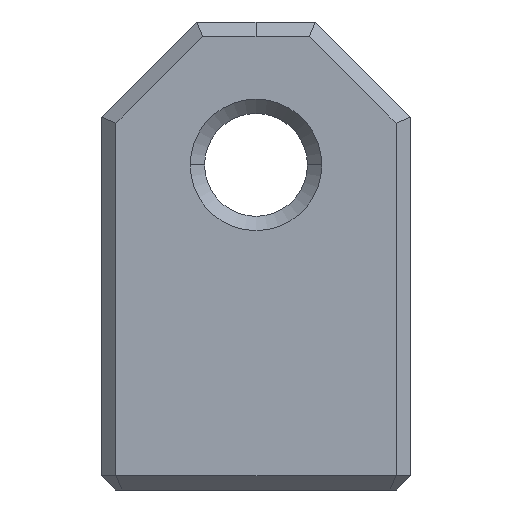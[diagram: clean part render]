
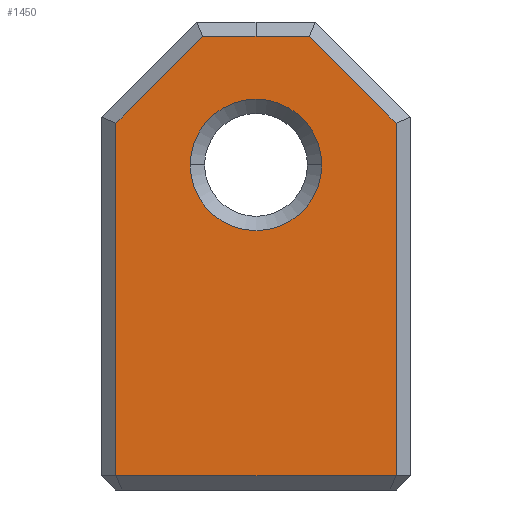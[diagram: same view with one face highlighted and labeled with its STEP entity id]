
A CAD part, left-side view. The second image highlights one B-rep face of the part: STEP entity #1450.
In plain terms, the highlighted planar face has unit normal (-1, 0, 0).
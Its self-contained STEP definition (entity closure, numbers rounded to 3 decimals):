
#893=CARTESIAN_POINT('Vertex',(0.,0.,14.5)) ;
#896=CARTESIAN_POINT('Line Origine',(0.,0.,14.5)) ;
#900=CARTESIAN_POINT('Vertex',(0.,-1.864,14.5)) ;
#919=CARTESIAN_POINT('Line Origine',(0.,0.,14.5)) ;
#923=CARTESIAN_POINT('Vertex',(0.,1.864,14.5)) ;
#946=CARTESIAN_POINT('Vertex',(0.,2.3,10.)) ;
#949=CARTESIAN_POINT('Axis2P3D Location',(0.,0.,10.)) ;
#953=CARTESIAN_POINT('Vertex',(0.,-2.3,10.)) ;
#973=CARTESIAN_POINT('Axis2P3D Location',(0.,0.,10.)) ;
#1206=CARTESIAN_POINT('Vertex',(0.,-4.9,11.464)) ;
#1209=CARTESIAN_POINT('Line Origine',(0.,-2.962,13.402)) ;
#1229=CARTESIAN_POINT('Vertex',(0.,4.9,11.464)) ;
#1232=CARTESIAN_POINT('Line Origine',(0.,2.962,13.402)) ;
#1374=CARTESIAN_POINT('Line Origine',(0.,4.9,6.5)) ;
#1378=CARTESIAN_POINT('Vertex',(0.,4.9,-0.875)) ;
#1420=CARTESIAN_POINT('Axis2P3D Location',(0.,0.,0.)) ;
#1425=CARTESIAN_POINT('Line Origine',(0.,-4.9,5.294)) ;
#1429=CARTESIAN_POINT('Vertex',(0.,-4.9,-0.875)) ;
#1432=CARTESIAN_POINT('Line Origine',(0.,0.,-0.875)) ;
#897=DIRECTION('Vector Direction',(0.,-1.,0.)) ;
#920=DIRECTION('Vector Direction',(0.,-1.,0.)) ;
#950=DIRECTION('Axis2P3D Direction',(-1.,0.,0.)) ;
#974=DIRECTION('Axis2P3D Direction',(-1.,0.,0.)) ;
#1210=DIRECTION('Vector Direction',(0.,-0.707,-0.707)) ;
#1233=DIRECTION('Vector Direction',(0.,0.707,-0.707)) ;
#1375=DIRECTION('Vector Direction',(0.,0.,1.)) ;
#1421=DIRECTION('Axis2P3D Direction',(-1.,0.,0.)) ;
#1422=DIRECTION('Axis2P3D XDirection',(0.,-1.,0.)) ;
#1426=DIRECTION('Vector Direction',(0.,0.,1.)) ;
#1433=DIRECTION('Vector Direction',(0.,1.,0.)) ;
#951=AXIS2_PLACEMENT_3D('Circle Axis2P3D',#949,#950,$) ;
#975=AXIS2_PLACEMENT_3D('Circle Axis2P3D',#973,#974,$) ;
#1423=AXIS2_PLACEMENT_3D('Plane Axis2P3D',#1420,#1421,#1422) ;
#1438=ORIENTED_EDGE('',*,*,#1431,.F.) ;
#1439=ORIENTED_EDGE('',*,*,#1213,.F.) ;
#1440=ORIENTED_EDGE('',*,*,#902,.F.) ;
#1441=ORIENTED_EDGE('',*,*,#925,.F.) ;
#1442=ORIENTED_EDGE('',*,*,#1236,.F.) ;
#1443=ORIENTED_EDGE('',*,*,#1380,.F.) ;
#1444=ORIENTED_EDGE('',*,*,#1436,.F.) ;
#1447=ORIENTED_EDGE('',*,*,#977,.F.) ;
#1448=ORIENTED_EDGE('',*,*,#955,.F.) ;
#1449=FACE_BOUND('',#1446,.T.) ;
#898=VECTOR('Line Direction',#897,1.) ;
#921=VECTOR('Line Direction',#920,1.) ;
#1211=VECTOR('Line Direction',#1210,1.) ;
#1234=VECTOR('Line Direction',#1233,1.) ;
#1376=VECTOR('Line Direction',#1375,1.) ;
#1427=VECTOR('Line Direction',#1426,1.) ;
#1434=VECTOR('Line Direction',#1433,1.) ;
#1450=ADVANCED_FACE('PartBody',(#1445,#1449),#1424,.T.) ;
#952=CIRCLE('generated circle',#951,2.3) ;
#976=CIRCLE('generated circle',#975,2.3) ;
#902=EDGE_CURVE('',#894,#901,#899,.T.) ;
#925=EDGE_CURVE('',#924,#894,#922,.T.) ;
#955=EDGE_CURVE('',#947,#954,#952,.T.) ;
#977=EDGE_CURVE('',#954,#947,#976,.T.) ;
#1213=EDGE_CURVE('',#901,#1207,#1212,.T.) ;
#1236=EDGE_CURVE('',#1230,#924,#1235,.F.) ;
#1380=EDGE_CURVE('',#1379,#1230,#1377,.T.) ;
#1431=EDGE_CURVE('',#1207,#1430,#1428,.F.) ;
#1436=EDGE_CURVE('',#1430,#1379,#1435,.T.) ;
#1437=EDGE_LOOP('',(#1438,#1439,#1440,#1441,#1442,#1443,#1444)) ;
#1446=EDGE_LOOP('',(#1447,#1448)) ;
#1445=FACE_OUTER_BOUND('',#1437,.T.) ;
#899=LINE('Line',#896,#898) ;
#922=LINE('Line',#919,#921) ;
#1212=LINE('Line',#1209,#1211) ;
#1235=LINE('Line',#1232,#1234) ;
#1377=LINE('Line',#1374,#1376) ;
#1428=LINE('Line',#1425,#1427) ;
#1435=LINE('Line',#1432,#1434) ;
#1424=PLANE('Plane',#1423) ;
#894=VERTEX_POINT('',#893) ;
#901=VERTEX_POINT('',#900) ;
#924=VERTEX_POINT('',#923) ;
#947=VERTEX_POINT('',#946) ;
#954=VERTEX_POINT('',#953) ;
#1207=VERTEX_POINT('',#1206) ;
#1230=VERTEX_POINT('',#1229) ;
#1379=VERTEX_POINT('',#1378) ;
#1430=VERTEX_POINT('',#1429) ;
